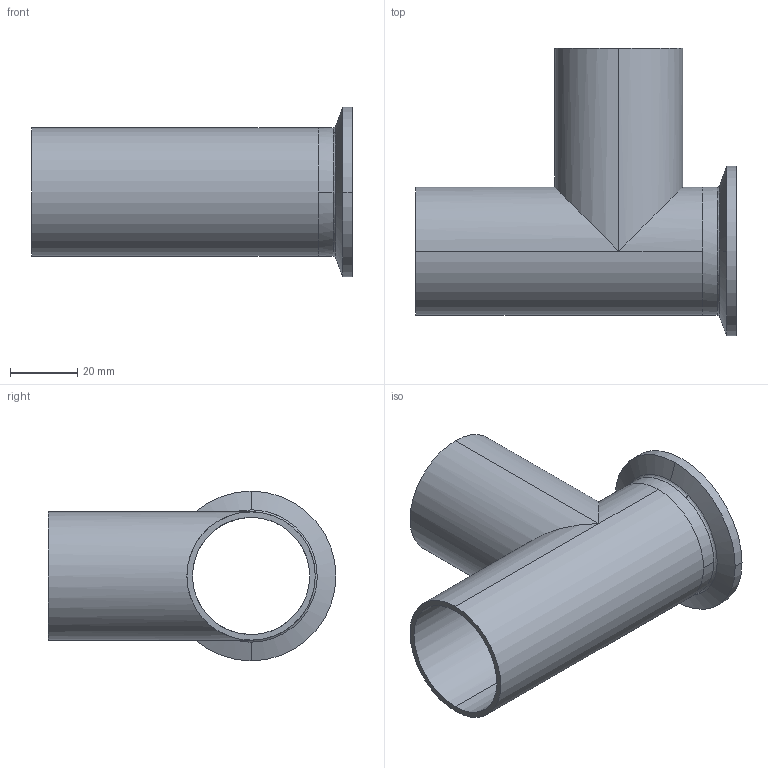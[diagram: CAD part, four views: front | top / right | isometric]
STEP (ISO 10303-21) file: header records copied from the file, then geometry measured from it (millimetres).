
FILE_DESCRIPTION (( 'STEP AP214' ), '1' );
FILE_NAME ('TE7WCSW6L1.5-...STEP', '2016-05-24T11:44:39', ( 'eran' ), ( '' ), 'SwSTEP 2.0', 'SolidWorks 2016', '' );
FILE_SCHEMA (( 'AUTOMOTIVE_DESIGN' ));
Length unit declared in the file: millimetre
Products named in the file (1): TE7WCSW6L1.5-..
Bounding box: 95.2 x 85.5 x 50.39 mm (x, y, z)
Volume: 28130.4 mm3; surface area: 32885.6 mm2
Topology: 2 solids, 2 shells, 38 faces, 94 edges, 60 vertices
Faces by surface type: cylinder 16, bspline 10, plane 6, cone 6
Entity records: 2206 total; most frequent: CARTESIAN_POINT 1260, DIRECTION 198, ORIENTED_EDGE 188, EDGE_CURVE 94, AXIS2_PLACEMENT_3D 87, VERTEX_POINT 60, CIRCLE 58, EDGE_LOOP 44
